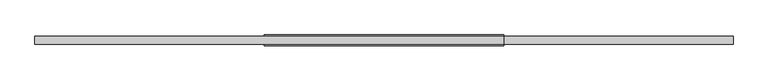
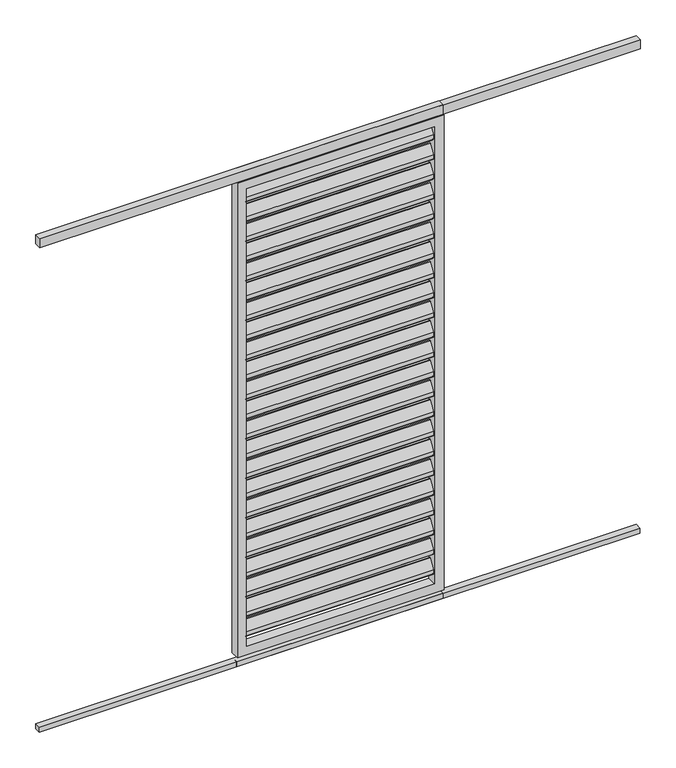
"""IFC4 building model written with IfcOpenShell, lengths in millimetres: proxy geometry, Renson_Camargue_Loggia_Paro_Aluminium : Renson_Camargue_Loggia_Paro_Aluminium."""

from ifc_helpers import new_model, si_unit, point, frame, frame_2d, origin, origin_with_axes, place, context, project, spatial, polyline, circle_curve, trimmed, segment, composite_curve, outline, extrude, source, transform, mapped, element, save


def generic_models_f089082d(model_context):
    return source(origin(), model_context, "Body", "SweptSolid", [
        extrude(outline(composite_curve([segment(trimmed(circle_curve(frame_2d((12.6675921, 2162.6587719)), 3.0), [point((10.1515804, 2164.292689))], [point((15.6675921, 2162.6587719))], False, "CARTESIAN"), True, "CONTINUOUS"), segment(polyline([(15.6675921, 2162.6587719), (15.6675921, 2144.2979873)]), True, "CONTINUOUS"), segment(trimmed(circle_curve(frame_2d((12.6675921, 2144.2979873)), 3.0), [point((15.6675921, 2144.2979873))], [point((15.1836038, 2142.6640702))], False, "CARTESIAN"), True, "CONTINUOUS"), segment(polyline([(15.1836038, 2142.6640702), (-8.8163962, 2105.707311)]), True, "CONTINUOUS"), segment(trimmed(circle_curve(frame_2d((-11.3324079, 2107.3412281)), 3.0), [point((-8.8163962, 2105.707311))], [point((-14.3324079, 2107.3412281))], False, "CARTESIAN"), True, "CONTINUOUS"), segment(polyline([(-14.3324079, 2107.3412281), (-14.3324079, 2126.5906532), (10.1515804, 2164.292689)]), True, "CONTINUOUS")], self_intersect=False)), frame((-405.0, 0.0, 0.0), z_axis=(1.0, 0.0, 0.0), x_axis=(0.0, 1.0, 0.0)), (0.0, 0.0, 1.0), 810.0),
        extrude(outline(composite_curve([segment(trimmed(circle_curve(frame_2d((12.6675921, 2072.6587719)), 3.0), [point((10.1515804, 2074.292689))], [point((15.6675921, 2072.6587719))], False, "CARTESIAN"), True, "CONTINUOUS"), segment(polyline([(15.6675921, 2072.6587719), (15.6675921, 2054.2979873)]), True, "CONTINUOUS"), segment(trimmed(circle_curve(frame_2d((12.6675921, 2054.2979873)), 3.0), [point((15.6675921, 2054.2979873))], [point((15.1836038, 2052.6640702))], False, "CARTESIAN"), True, "CONTINUOUS"), segment(polyline([(15.1836038, 2052.6640702), (-8.8163962, 2015.707311)]), True, "CONTINUOUS"), segment(trimmed(circle_curve(frame_2d((-11.3324079, 2017.3412281)), 3.0), [point((-8.8163962, 2015.707311))], [point((-14.3324079, 2017.3412281))], False, "CARTESIAN"), True, "CONTINUOUS"), segment(polyline([(-14.3324079, 2017.3412281), (-14.3324079, 2036.5906532), (10.1515804, 2074.292689)]), True, "CONTINUOUS")], self_intersect=False)), frame((-405.0, 0.0, 0.0), z_axis=(1.0, 0.0, 0.0), x_axis=(0.0, 1.0, 0.0)), (0.0, 0.0, 1.0), 810.0),
        extrude(outline(composite_curve([segment(trimmed(circle_curve(frame_2d((12.6675921, 1982.6587719)), 3.0), [point((10.1515804, 1984.292689))], [point((15.6675921, 1982.6587719))], False, "CARTESIAN"), True, "CONTINUOUS"), segment(polyline([(15.6675921, 1982.6587719), (15.6675921, 1964.2979873)]), True, "CONTINUOUS"), segment(trimmed(circle_curve(frame_2d((12.6675921, 1964.2979873)), 3.0), [point((15.6675921, 1964.2979873))], [point((15.1836038, 1962.6640702))], False, "CARTESIAN"), True, "CONTINUOUS"), segment(polyline([(15.1836038, 1962.6640702), (-8.8163962, 1925.707311)]), True, "CONTINUOUS"), segment(trimmed(circle_curve(frame_2d((-11.3324079, 1927.3412281)), 3.0), [point((-8.8163962, 1925.707311))], [point((-14.3324079, 1927.3412281))], False, "CARTESIAN"), True, "CONTINUOUS"), segment(polyline([(-14.3324079, 1927.3412281), (-14.3324079, 1946.5906532), (10.1515804, 1984.292689)]), True, "CONTINUOUS")], self_intersect=False)), frame((-405.0, 0.0, 0.0), z_axis=(1.0, 0.0, 0.0), x_axis=(0.0, 1.0, 0.0)), (0.0, 0.0, 1.0), 810.0),
        extrude(outline(composite_curve([segment(trimmed(circle_curve(frame_2d((12.6675921, 1892.6587719)), 3.0), [point((10.1515804, 1894.292689))], [point((15.6675921, 1892.6587719))], False, "CARTESIAN"), True, "CONTINUOUS"), segment(polyline([(15.6675921, 1892.6587719), (15.6675921, 1874.2979873)]), True, "CONTINUOUS"), segment(trimmed(circle_curve(frame_2d((12.6675921, 1874.2979873)), 3.0), [point((15.6675921, 1874.2979873))], [point((15.1836038, 1872.6640702))], False, "CARTESIAN"), True, "CONTINUOUS"), segment(polyline([(15.1836038, 1872.6640702), (-8.8163962, 1835.707311)]), True, "CONTINUOUS"), segment(trimmed(circle_curve(frame_2d((-11.3324079, 1837.3412281)), 3.0), [point((-8.8163962, 1835.707311))], [point((-14.3324079, 1837.3412281))], False, "CARTESIAN"), True, "CONTINUOUS"), segment(polyline([(-14.3324079, 1837.3412281), (-14.3324079, 1856.5906532), (10.1515804, 1894.292689)]), True, "CONTINUOUS")], self_intersect=False)), frame((-405.0, 0.0, 0.0), z_axis=(1.0, 0.0, 0.0), x_axis=(0.0, 1.0, 0.0)), (0.0, 0.0, 1.0), 810.0),
        extrude(outline(composite_curve([segment(trimmed(circle_curve(frame_2d((12.6675921, 1802.6587719)), 3.0), [point((10.1515804, 1804.292689))], [point((15.6675921, 1802.6587719))], False, "CARTESIAN"), True, "CONTINUOUS"), segment(polyline([(15.6675921, 1802.6587719), (15.6675921, 1784.2979873)]), True, "CONTINUOUS"), segment(trimmed(circle_curve(frame_2d((12.6675921, 1784.2979873)), 3.0), [point((15.6675921, 1784.2979873))], [point((15.1836038, 1782.6640702))], False, "CARTESIAN"), True, "CONTINUOUS"), segment(polyline([(15.1836038, 1782.6640702), (-8.8163962, 1745.707311)]), True, "CONTINUOUS"), segment(trimmed(circle_curve(frame_2d((-11.3324079, 1747.3412281)), 3.0), [point((-8.8163962, 1745.707311))], [point((-14.3324079, 1747.3412281))], False, "CARTESIAN"), True, "CONTINUOUS"), segment(polyline([(-14.3324079, 1747.3412281), (-14.3324079, 1766.5906532), (10.1515804, 1804.292689)]), True, "CONTINUOUS")], self_intersect=False)), frame((-405.0, 0.0, 0.0), z_axis=(1.0, 0.0, 0.0), x_axis=(0.0, 1.0, 0.0)), (0.0, 0.0, 1.0), 810.0),
        extrude(outline(composite_curve([segment(trimmed(circle_curve(frame_2d((12.6675921, 1712.6587719)), 3.0), [point((10.1515804, 1714.292689))], [point((15.6675921, 1712.6587719))], False, "CARTESIAN"), True, "CONTINUOUS"), segment(polyline([(15.6675921, 1712.6587719), (15.6675921, 1694.2979873)]), True, "CONTINUOUS"), segment(trimmed(circle_curve(frame_2d((12.6675921, 1694.2979873)), 3.0), [point((15.6675921, 1694.2979873))], [point((15.1836038, 1692.6640702))], False, "CARTESIAN"), True, "CONTINUOUS"), segment(polyline([(15.1836038, 1692.6640702), (-8.8163962, 1655.707311)]), True, "CONTINUOUS"), segment(trimmed(circle_curve(frame_2d((-11.3324079, 1657.3412281)), 3.0), [point((-8.8163962, 1655.707311))], [point((-14.3324079, 1657.3412281))], False, "CARTESIAN"), True, "CONTINUOUS"), segment(polyline([(-14.3324079, 1657.3412281), (-14.3324079, 1676.5906532), (10.1515804, 1714.292689)]), True, "CONTINUOUS")], self_intersect=False)), frame((-405.0, 0.0, 0.0), z_axis=(1.0, 0.0, 0.0), x_axis=(0.0, 1.0, 0.0)), (0.0, 0.0, 1.0), 810.0),
        extrude(outline(composite_curve([segment(trimmed(circle_curve(frame_2d((12.6675921, 1622.6587719)), 3.0), [point((10.1515804, 1624.292689))], [point((15.6675921, 1622.6587719))], False, "CARTESIAN"), True, "CONTINUOUS"), segment(polyline([(15.6675921, 1622.6587719), (15.6675921, 1604.2979873)]), True, "CONTINUOUS"), segment(trimmed(circle_curve(frame_2d((12.6675921, 1604.2979873)), 3.0), [point((15.6675921, 1604.2979873))], [point((15.1836038, 1602.6640702))], False, "CARTESIAN"), True, "CONTINUOUS"), segment(polyline([(15.1836038, 1602.6640702), (-8.8163962, 1565.707311)]), True, "CONTINUOUS"), segment(trimmed(circle_curve(frame_2d((-11.3324079, 1567.3412281)), 3.0), [point((-8.8163962, 1565.707311))], [point((-14.3324079, 1567.3412281))], False, "CARTESIAN"), True, "CONTINUOUS"), segment(polyline([(-14.3324079, 1567.3412281), (-14.3324079, 1586.5906532), (10.1515804, 1624.292689)]), True, "CONTINUOUS")], self_intersect=False)), frame((-405.0, 0.0, 0.0), z_axis=(1.0, 0.0, 0.0), x_axis=(0.0, 1.0, 0.0)), (0.0, 0.0, 1.0), 810.0),
        extrude(outline(composite_curve([segment(trimmed(circle_curve(frame_2d((12.6675921, 1532.6587719)), 3.0), [point((10.1515804, 1534.292689))], [point((15.6675921, 1532.6587719))], False, "CARTESIAN"), True, "CONTINUOUS"), segment(polyline([(15.6675921, 1532.6587719), (15.6675921, 1514.2979873)]), True, "CONTINUOUS"), segment(trimmed(circle_curve(frame_2d((12.6675921, 1514.2979873)), 3.0), [point((15.6675921, 1514.2979873))], [point((15.1836038, 1512.6640702))], False, "CARTESIAN"), True, "CONTINUOUS"), segment(polyline([(15.1836038, 1512.6640702), (-8.8163962, 1475.707311)]), True, "CONTINUOUS"), segment(trimmed(circle_curve(frame_2d((-11.3324079, 1477.3412281)), 3.0), [point((-8.8163962, 1475.707311))], [point((-14.3324079, 1477.3412281))], False, "CARTESIAN"), True, "CONTINUOUS"), segment(polyline([(-14.3324079, 1477.3412281), (-14.3324079, 1496.5906532), (10.1515804, 1534.292689)]), True, "CONTINUOUS")], self_intersect=False)), frame((-405.0, 0.0, 0.0), z_axis=(1.0, 0.0, 0.0), x_axis=(0.0, 1.0, 0.0)), (0.0, 0.0, 1.0), 810.0),
        extrude(outline(composite_curve([segment(trimmed(circle_curve(frame_2d((12.6675921, 1442.6587719)), 3.0), [point((10.1515804, 1444.292689))], [point((15.6675921, 1442.6587719))], False, "CARTESIAN"), True, "CONTINUOUS"), segment(polyline([(15.6675921, 1442.6587719), (15.6675921, 1424.2979873)]), True, "CONTINUOUS"), segment(trimmed(circle_curve(frame_2d((12.6675921, 1424.2979873)), 3.0), [point((15.6675921, 1424.2979873))], [point((15.1836038, 1422.6640702))], False, "CARTESIAN"), True, "CONTINUOUS"), segment(polyline([(15.1836038, 1422.6640702), (-8.8163962, 1385.707311)]), True, "CONTINUOUS"), segment(trimmed(circle_curve(frame_2d((-11.3324079, 1387.3412281)), 3.0), [point((-8.8163962, 1385.707311))], [point((-14.3324079, 1387.3412281))], False, "CARTESIAN"), True, "CONTINUOUS"), segment(polyline([(-14.3324079, 1387.3412281), (-14.3324079, 1406.5906532), (10.1515804, 1444.292689)]), True, "CONTINUOUS")], self_intersect=False)), frame((-405.0, 0.0, 0.0), z_axis=(1.0, 0.0, 0.0), x_axis=(0.0, 1.0, 0.0)), (0.0, 0.0, 1.0), 810.0),
        extrude(outline(composite_curve([segment(trimmed(circle_curve(frame_2d((12.6675921, 1352.6587719)), 3.0), [point((10.1515804, 1354.292689))], [point((15.6675921, 1352.6587719))], False, "CARTESIAN"), True, "CONTINUOUS"), segment(polyline([(15.6675921, 1352.6587719), (15.6675921, 1334.2979873)]), True, "CONTINUOUS"), segment(trimmed(circle_curve(frame_2d((12.6675921, 1334.2979873)), 3.0), [point((15.6675921, 1334.2979873))], [point((15.1836038, 1332.6640702))], False, "CARTESIAN"), True, "CONTINUOUS"), segment(polyline([(15.1836038, 1332.6640702), (-8.8163962, 1295.707311)]), True, "CONTINUOUS"), segment(trimmed(circle_curve(frame_2d((-11.3324079, 1297.3412281)), 3.0), [point((-8.8163962, 1295.707311))], [point((-14.3324079, 1297.3412281))], False, "CARTESIAN"), True, "CONTINUOUS"), segment(polyline([(-14.3324079, 1297.3412281), (-14.3324079, 1316.5906532), (10.1515804, 1354.292689)]), True, "CONTINUOUS")], self_intersect=False)), frame((-405.0, 0.0, 0.0), z_axis=(1.0, 0.0, 0.0), x_axis=(0.0, 1.0, 0.0)), (0.0, 0.0, 1.0), 810.0),
        extrude(outline(composite_curve([segment(trimmed(circle_curve(frame_2d((12.6675921, 1262.6587719)), 3.0), [point((10.1515804, 1264.292689))], [point((15.6675921, 1262.6587719))], False, "CARTESIAN"), True, "CONTINUOUS"), segment(polyline([(15.6675921, 1262.6587719), (15.6675921, 1244.2979873)]), True, "CONTINUOUS"), segment(trimmed(circle_curve(frame_2d((12.6675921, 1244.2979873)), 3.0), [point((15.6675921, 1244.2979873))], [point((15.1836038, 1242.6640702))], False, "CARTESIAN"), True, "CONTINUOUS"), segment(polyline([(15.1836038, 1242.6640702), (-8.8163962, 1205.707311)]), True, "CONTINUOUS"), segment(trimmed(circle_curve(frame_2d((-11.3324079, 1207.3412281)), 3.0), [point((-8.8163962, 1205.707311))], [point((-14.3324079, 1207.3412281))], False, "CARTESIAN"), True, "CONTINUOUS"), segment(polyline([(-14.3324079, 1207.3412281), (-14.3324079, 1226.5906532), (10.1515804, 1264.292689)]), True, "CONTINUOUS")], self_intersect=False)), frame((-405.0, 0.0, 0.0), z_axis=(1.0, 0.0, 0.0), x_axis=(0.0, 1.0, 0.0)), (0.0, 0.0, 1.0), 810.0),
        extrude(outline(composite_curve([segment(trimmed(circle_curve(frame_2d((12.6675921, 1172.6587719)), 3.0), [point((10.1515804, 1174.292689))], [point((15.6675921, 1172.6587719))], False, "CARTESIAN"), True, "CONTINUOUS"), segment(polyline([(15.6675921, 1172.6587719), (15.6675921, 1154.2979873)]), True, "CONTINUOUS"), segment(trimmed(circle_curve(frame_2d((12.6675921, 1154.2979873)), 3.0), [point((15.6675921, 1154.2979873))], [point((15.1836038, 1152.6640702))], False, "CARTESIAN"), True, "CONTINUOUS"), segment(polyline([(15.1836038, 1152.6640702), (-8.8163962, 1115.707311)]), True, "CONTINUOUS"), segment(trimmed(circle_curve(frame_2d((-11.3324079, 1117.3412281)), 3.0), [point((-8.8163962, 1115.707311))], [point((-14.3324079, 1117.3412281))], False, "CARTESIAN"), True, "CONTINUOUS"), segment(polyline([(-14.3324079, 1117.3412281), (-14.3324079, 1136.5906532), (10.1515804, 1174.292689)]), True, "CONTINUOUS")], self_intersect=False)), frame((-405.0, 0.0, 0.0), z_axis=(1.0, 0.0, 0.0), x_axis=(0.0, 1.0, 0.0)), (0.0, 0.0, 1.0), 810.0),
        extrude(outline(composite_curve([segment(trimmed(circle_curve(frame_2d((12.6675921, 1082.6587719)), 3.0), [point((10.1515804, 1084.292689))], [point((15.6675921, 1082.6587719))], False, "CARTESIAN"), True, "CONTINUOUS"), segment(polyline([(15.6675921, 1082.6587719), (15.6675921, 1064.2979873)]), True, "CONTINUOUS"), segment(trimmed(circle_curve(frame_2d((12.6675921, 1064.2979873)), 3.0), [point((15.6675921, 1064.2979873))], [point((15.1836038, 1062.6640702))], False, "CARTESIAN"), True, "CONTINUOUS"), segment(polyline([(15.1836038, 1062.6640702), (-8.8163962, 1025.707311)]), True, "CONTINUOUS"), segment(trimmed(circle_curve(frame_2d((-11.3324079, 1027.3412281)), 3.0), [point((-8.8163962, 1025.707311))], [point((-14.3324079, 1027.3412281))], False, "CARTESIAN"), True, "CONTINUOUS"), segment(polyline([(-14.3324079, 1027.3412281), (-14.3324079, 1046.5906532), (10.1515804, 1084.292689)]), True, "CONTINUOUS")], self_intersect=False)), frame((-405.0, 0.0, 0.0), z_axis=(1.0, 0.0, 0.0), x_axis=(0.0, 1.0, 0.0)), (0.0, 0.0, 1.0), 810.0),
        extrude(outline(composite_curve([segment(trimmed(circle_curve(frame_2d((12.6675921, 992.6587719)), 3.0), [point((10.1515804, 994.292689))], [point((15.6675921, 992.6587719))], False, "CARTESIAN"), True, "CONTINUOUS"), segment(polyline([(15.6675921, 992.6587719), (15.6675921, 974.2979873)]), True, "CONTINUOUS"), segment(trimmed(circle_curve(frame_2d((12.6675921, 974.2979873)), 3.0), [point((15.6675921, 974.2979873))], [point((15.1836038, 972.6640702))], False, "CARTESIAN"), True, "CONTINUOUS"), segment(polyline([(15.1836038, 972.6640702), (-8.8163962, 935.707311)]), True, "CONTINUOUS"), segment(trimmed(circle_curve(frame_2d((-11.3324079, 937.3412281)), 3.0), [point((-8.8163962, 935.707311))], [point((-14.3324079, 937.3412281))], False, "CARTESIAN"), True, "CONTINUOUS"), segment(polyline([(-14.3324079, 937.3412281), (-14.3324079, 956.5906532), (10.1515804, 994.292689)]), True, "CONTINUOUS")], self_intersect=False)), frame((-405.0, 0.0, 0.0), z_axis=(1.0, 0.0, 0.0), x_axis=(0.0, 1.0, 0.0)), (0.0, 0.0, 1.0), 810.0),
        extrude(outline(composite_curve([segment(trimmed(circle_curve(frame_2d((12.6675921, 902.6587719)), 3.0), [point((10.1515804, 904.292689))], [point((15.6675921, 902.6587719))], False, "CARTESIAN"), True, "CONTINUOUS"), segment(polyline([(15.6675921, 902.6587719), (15.6675921, 884.2979873)]), True, "CONTINUOUS"), segment(trimmed(circle_curve(frame_2d((12.6675921, 884.2979873)), 3.0), [point((15.6675921, 884.2979873))], [point((15.1836038, 882.6640702))], False, "CARTESIAN"), True, "CONTINUOUS"), segment(polyline([(15.1836038, 882.6640702), (-8.8163962, 845.707311)]), True, "CONTINUOUS"), segment(trimmed(circle_curve(frame_2d((-11.3324079, 847.3412281)), 3.0), [point((-8.8163962, 845.707311))], [point((-14.3324079, 847.3412281))], False, "CARTESIAN"), True, "CONTINUOUS"), segment(polyline([(-14.3324079, 847.3412281), (-14.3324079, 866.5906532), (10.1515804, 904.292689)]), True, "CONTINUOUS")], self_intersect=False)), frame((-405.0, 0.0, 0.0), z_axis=(1.0, 0.0, 0.0), x_axis=(0.0, 1.0, 0.0)), (0.0, 0.0, 1.0), 810.0),
        extrude(outline(composite_curve([segment(trimmed(circle_curve(frame_2d((12.6675921, 812.6587719)), 3.0), [point((10.1515804, 814.292689))], [point((15.6675921, 812.6587719))], False, "CARTESIAN"), True, "CONTINUOUS"), segment(polyline([(15.6675921, 812.6587719), (15.6675921, 794.2979873)]), True, "CONTINUOUS"), segment(trimmed(circle_curve(frame_2d((12.6675921, 794.2979873)), 3.0), [point((15.6675921, 794.2979873))], [point((15.1836038, 792.6640702))], False, "CARTESIAN"), True, "CONTINUOUS"), segment(polyline([(15.1836038, 792.6640702), (-8.8163962, 755.707311)]), True, "CONTINUOUS"), segment(trimmed(circle_curve(frame_2d((-11.3324079, 757.3412281)), 3.0), [point((-8.8163962, 755.707311))], [point((-14.3324079, 757.3412281))], False, "CARTESIAN"), True, "CONTINUOUS"), segment(polyline([(-14.3324079, 757.3412281), (-14.3324079, 776.5906532), (10.1515804, 814.292689)]), True, "CONTINUOUS")], self_intersect=False)), frame((-405.0, 0.0, 0.0), z_axis=(1.0, 0.0, 0.0), x_axis=(0.0, 1.0, 0.0)), (0.0, 0.0, 1.0), 810.0),
        extrude(outline(composite_curve([segment(trimmed(circle_curve(frame_2d((12.6675921, 722.6587719)), 3.0), [point((10.1515804, 724.292689))], [point((15.6675921, 722.6587719))], False, "CARTESIAN"), True, "CONTINUOUS"), segment(polyline([(15.6675921, 722.6587719), (15.6675921, 704.2979873)]), True, "CONTINUOUS"), segment(trimmed(circle_curve(frame_2d((12.6675921, 704.2979873)), 3.0), [point((15.6675921, 704.2979873))], [point((15.1836038, 702.6640702))], False, "CARTESIAN"), True, "CONTINUOUS"), segment(polyline([(15.1836038, 702.6640702), (-8.8163962, 665.707311)]), True, "CONTINUOUS"), segment(trimmed(circle_curve(frame_2d((-11.3324079, 667.3412281)), 3.0), [point((-8.8163962, 665.707311))], [point((-14.3324079, 667.3412281))], False, "CARTESIAN"), True, "CONTINUOUS"), segment(polyline([(-14.3324079, 667.3412281), (-14.3324079, 686.5906532), (10.1515804, 724.292689)]), True, "CONTINUOUS")], self_intersect=False)), frame((-405.0, 0.0, 0.0), z_axis=(1.0, 0.0, 0.0), x_axis=(0.0, 1.0, 0.0)), (0.0, 0.0, 1.0), 810.0),
        extrude(outline(composite_curve([segment(trimmed(circle_curve(frame_2d((12.6675921, 632.6587719)), 3.0), [point((10.1515804, 634.292689))], [point((15.6675921, 632.6587719))], False, "CARTESIAN"), True, "CONTINUOUS"), segment(polyline([(15.6675921, 632.6587719), (15.6675921, 614.2979873)]), True, "CONTINUOUS"), segment(trimmed(circle_curve(frame_2d((12.6675921, 614.2979873)), 3.0), [point((15.6675921, 614.2979873))], [point((15.1836038, 612.6640702))], False, "CARTESIAN"), True, "CONTINUOUS"), segment(polyline([(15.1836038, 612.6640702), (-8.8163962, 575.707311)]), True, "CONTINUOUS"), segment(trimmed(circle_curve(frame_2d((-11.3324079, 577.3412281)), 3.0), [point((-8.8163962, 575.707311))], [point((-14.3324079, 577.3412281))], False, "CARTESIAN"), True, "CONTINUOUS"), segment(polyline([(-14.3324079, 577.3412281), (-14.3324079, 596.5906532), (10.1515804, 634.292689)]), True, "CONTINUOUS")], self_intersect=False)), frame((-405.0, 0.0, 0.0), z_axis=(1.0, 0.0, 0.0), x_axis=(0.0, 1.0, 0.0)), (0.0, 0.0, 1.0), 810.0),
        extrude(outline(composite_curve([segment(trimmed(circle_curve(frame_2d((12.6675921, 542.6587719)), 3.0), [point((10.1515804, 544.292689))], [point((15.6675921, 542.6587719))], False, "CARTESIAN"), True, "CONTINUOUS"), segment(polyline([(15.6675921, 542.6587719), (15.6675921, 524.2979873)]), True, "CONTINUOUS"), segment(trimmed(circle_curve(frame_2d((12.6675921, 524.2979873)), 3.0), [point((15.6675921, 524.2979873))], [point((15.1836038, 522.6640702))], False, "CARTESIAN"), True, "CONTINUOUS"), segment(polyline([(15.1836038, 522.6640702), (-8.8163962, 485.707311)]), True, "CONTINUOUS"), segment(trimmed(circle_curve(frame_2d((-11.3324079, 487.3412281)), 3.0), [point((-8.8163962, 485.707311))], [point((-14.3324079, 487.3412281))], False, "CARTESIAN"), True, "CONTINUOUS"), segment(polyline([(-14.3324079, 487.3412281), (-14.3324079, 506.5906532), (10.1515804, 544.292689)]), True, "CONTINUOUS")], self_intersect=False)), frame((-405.0, 0.0, 0.0), z_axis=(1.0, 0.0, 0.0), x_axis=(0.0, 1.0, 0.0)), (0.0, 0.0, 1.0), 810.0),
        extrude(outline(composite_curve([segment(trimmed(circle_curve(frame_2d((12.6675921, 452.6587719)), 3.0), [point((10.1515804, 454.292689))], [point((15.6675921, 452.6587719))], False, "CARTESIAN"), True, "CONTINUOUS"), segment(polyline([(15.6675921, 452.6587719), (15.6675921, 434.2979873)]), True, "CONTINUOUS"), segment(trimmed(circle_curve(frame_2d((12.6675921, 434.2979873)), 3.0), [point((15.6675921, 434.2979873))], [point((15.1836038, 432.6640702))], False, "CARTESIAN"), True, "CONTINUOUS"), segment(polyline([(15.1836038, 432.6640702), (-8.8163962, 395.707311)]), True, "CONTINUOUS"), segment(trimmed(circle_curve(frame_2d((-11.3324079, 397.3412281)), 3.0), [point((-8.8163962, 395.707311))], [point((-14.3324079, 397.3412281))], False, "CARTESIAN"), True, "CONTINUOUS"), segment(polyline([(-14.3324079, 397.3412281), (-14.3324079, 416.5906532), (10.1515804, 454.292689)]), True, "CONTINUOUS")], self_intersect=False)), frame((-405.0, 0.0, 0.0), z_axis=(1.0, 0.0, 0.0), x_axis=(0.0, 1.0, 0.0)), (0.0, 0.0, 1.0), 810.0),
        extrude(outline(composite_curve([segment(trimmed(circle_curve(frame_2d((12.6675921, 362.6587719)), 3.0), [point((10.1515804, 364.292689))], [point((15.6675921, 362.6587719))], False, "CARTESIAN"), True, "CONTINUOUS"), segment(polyline([(15.6675921, 362.6587719), (15.6675921, 344.2979873)]), True, "CONTINUOUS"), segment(trimmed(circle_curve(frame_2d((12.6675921, 344.2979873)), 3.0), [point((15.6675921, 344.2979873))], [point((15.1836038, 342.6640702))], False, "CARTESIAN"), True, "CONTINUOUS"), segment(polyline([(15.1836038, 342.6640702), (-8.8163962, 305.707311)]), True, "CONTINUOUS"), segment(trimmed(circle_curve(frame_2d((-11.3324079, 307.3412281)), 3.0), [point((-8.8163962, 305.707311))], [point((-14.3324079, 307.3412281))], False, "CARTESIAN"), True, "CONTINUOUS"), segment(polyline([(-14.3324079, 307.3412281), (-14.3324079, 326.5906532), (10.1515804, 364.292689)]), True, "CONTINUOUS")], self_intersect=False)), frame((-405.0, 0.0, 0.0), z_axis=(1.0, 0.0, 0.0), x_axis=(0.0, 1.0, 0.0)), (0.0, 0.0, 1.0), 810.0),
        extrude(outline(composite_curve([segment(trimmed(circle_curve(frame_2d((12.6675921, 272.6587719)), 3.0), [point((10.1515804, 274.292689))], [point((15.6675921, 272.6587719))], False, "CARTESIAN"), True, "CONTINUOUS"), segment(polyline([(15.6675921, 272.6587719), (15.6675921, 254.2979873)]), True, "CONTINUOUS"), segment(trimmed(circle_curve(frame_2d((12.6675921, 254.2979873)), 3.0), [point((15.6675921, 254.2979873))], [point((15.1836038, 252.6640702))], False, "CARTESIAN"), True, "CONTINUOUS"), segment(polyline([(15.1836038, 252.6640702), (-8.8163962, 215.707311)]), True, "CONTINUOUS"), segment(trimmed(circle_curve(frame_2d((-11.3324079, 217.3412281)), 3.0), [point((-8.8163962, 215.707311))], [point((-14.3324079, 217.3412281))], False, "CARTESIAN"), True, "CONTINUOUS"), segment(polyline([(-14.3324079, 217.3412281), (-14.3324079, 236.5906532), (10.1515804, 274.292689)]), True, "CONTINUOUS")], self_intersect=False)), frame((-405.0, 0.0, 0.0), z_axis=(1.0, 0.0, 0.0), x_axis=(0.0, 1.0, 0.0)), (0.0, 0.0, 1.0), 810.0),
        extrude(outline(composite_curve([segment(trimmed(circle_curve(frame_2d((12.6675921, 182.6587719)), 3.0), [point((10.1515804, 184.292689))], [point((15.6675921, 182.6587719))], False, "CARTESIAN"), True, "CONTINUOUS"), segment(polyline([(15.6675921, 182.6587719), (15.6675921, 164.2979873)]), True, "CONTINUOUS"), segment(trimmed(circle_curve(frame_2d((12.6675921, 164.2979873)), 3.0), [point((15.6675921, 164.2979873))], [point((15.1836038, 162.6640702))], False, "CARTESIAN"), True, "CONTINUOUS"), segment(polyline([(15.1836038, 162.6640702), (-8.8163962, 125.707311)]), True, "CONTINUOUS"), segment(trimmed(circle_curve(frame_2d((-11.3324079, 127.3412281)), 3.0), [point((-8.8163962, 125.707311))], [point((-14.3324079, 127.3412281))], False, "CARTESIAN"), True, "CONTINUOUS"), segment(polyline([(-14.3324079, 127.3412281), (-14.3324079, 146.5906532), (10.1515804, 184.292689)]), True, "CONTINUOUS")], self_intersect=False)), frame((-405.0, 0.0, 0.0), z_axis=(1.0, 0.0, 0.0), x_axis=(0.0, 1.0, 0.0)), (0.0, 0.0, 1.0), 810.0),
        extrude(outline(polyline([(445.0, 15.0), (445.0, -15.0), (-1295.0, -15.0), (-1295.0, 15.0), (445.0, 15.0)])), frame((0.0, 0.0, 2207.7138321), z_axis=(0.0, 0.0, 1.0), x_axis=(1.0, 0.0, 0.0)), (0.0, 0.0, 1.0), 42.2861679),
        extrude(outline(polyline([(1295.0, 15.0), (1295.0, -15.0), (-445.0, -15.0), (-445.0, 15.0), (1295.0, 15.0)])), frame((0.0, 0.0, 2207.7138321), z_axis=(0.0, 0.0, 1.0), x_axis=(1.0, 0.0, 0.0)), (0.0, 0.0, 1.0), 42.2861679),
        extrude(outline(polyline([(445.0, -13.0), (-1295.0, -13.0), (-1295.0, 14.0), (445.0, 14.0), (445.0, -13.0)])), origin_with_axes(), (0.0, 0.0, 1.0), 23.0),
        extrude(outline(polyline([(1295.0, -13.0), (-445.0, -13.0), (-445.0, 14.0), (1295.0, 14.0), (1295.0, -13.0)])), origin_with_axes(), (0.0, 0.0, 1.0), 23.0),
        extrude(outline(polyline([(2207.7138321, -445.0), (45.0, -445.0), (45.0, 445.0), (2207.7138321, 445.0), (2207.7138321, -445.0)]), holes=[polyline([(2167.7138321, 405.0), (85.0, 405.0), (85.0, -405.0), (2167.7138321, -405.0), (2167.7138321, 405.0)])]), frame((0.0, -20.0, 0.0), z_axis=(0.0, 1.0, 0.0), x_axis=(0.0, 0.0, 1.0)), (0.0, 0.0, 1.0), 40.0),
    ])


if __name__ == "__main__":
    model = new_model("IFC4")
    model_context = context("Model", 3, world=origin())
    ifc_project = project(units=[si_unit("LENGTHUNIT", "METRE", prefix="MILLI")], contexts=[model_context])
    site = spatial("IfcSite", under=ifc_project)
    building = spatial("IfcBuilding", under=site)
    placement = place(None, origin())
    generic_models_shape = generic_models_f089082d(model_context)
    element("IfcBuildingElementProxy", 1, Name="Renson_Camargue_Loggia_Paro_Aluminium : Renson_Camargue_Loggia_Paro_Aluminium", ObjectType="Renson_Camargue_Loggia_Paro_Aluminium : Renson_Camargue_Loggia_Paro_Aluminium", at=placement, inside=building, context=model_context, shape_type="MappedRepresentation", body=[
        mapped(generic_models_shape, transform((0.0, 0.0, 0.0), x_axis=(1.0, 0.0, 0.0), y_axis=(0.0, 1.0, 0.0), z_axis=(0.0, 0.0, 1.0))),
    ])
    save(model, "model.ifc")
